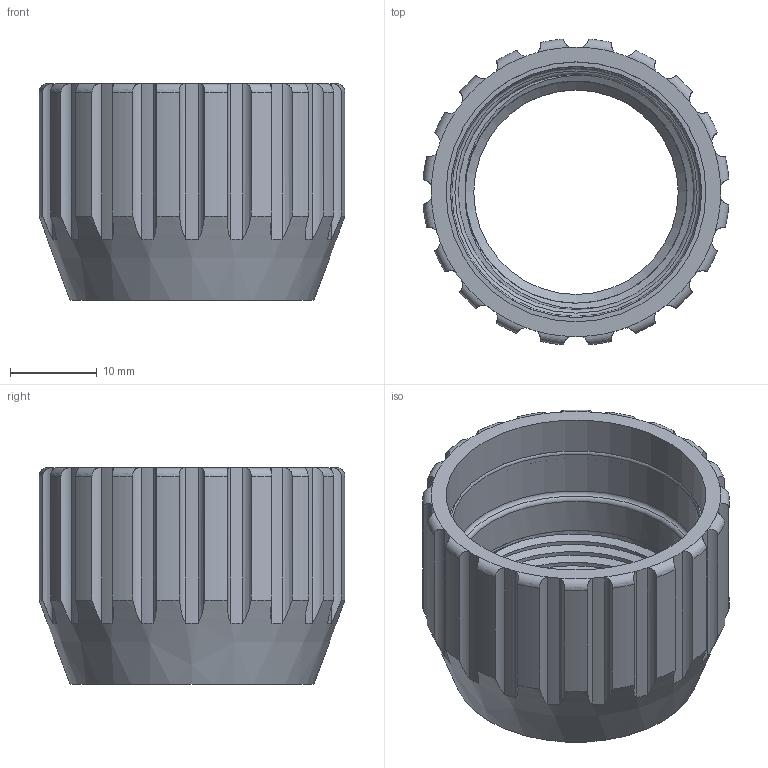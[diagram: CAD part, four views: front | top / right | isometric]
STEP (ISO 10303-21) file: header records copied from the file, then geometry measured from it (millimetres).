
FILE_DESCRIPTION(/* description */ (''),/* implementation_level */ '2;1');
FILE_NAME(/* name */ 'Boltlok cover.step',/* time_stamp */ '2026-09-23T16:57:07+03:00',/* author */ (''),/* organization */ (''),/* preprocessor_version */ 'ST-DEVELOPER v20.2',/* originating_system */ 'Autodesk Translation Framework v15.15.0.0',/* authorisation */ '');
FILE_SCHEMA (('AUTOMOTIVE_DESIGN { 1 0 10303 214 3 1 1 }'));
Length unit declared in the file: millimetre
Products named in the file (1): 2026-04-29-20-47-38-612
Bounding box: 35.28 x 35.28 x 25 mm (x, y, z)
Volume: 6963.1 mm3; surface area: 6345.5 mm2
Topology: 1 solids, 1 shells, 126 faces, 321 edges, 199 vertices
Faces by surface type: cylinder 92, torus 23, plane 6, cone 3, bspline 2
Full cylindrical faces by diameter (mm): 23.6 x1, 27.2 x1, 27.208 x5, 28.7 x1, 29 x1, 30 x1
Entity records: 6121 total; most frequent: CARTESIAN_POINT 3154, ORIENTED_EDGE 642, DIRECTION 592, EDGE_CURVE 321, AXIS2_PLACEMENT_3D 249, VERTEX_POINT 199, EDGE_LOOP 130, FACE_OUTER_BOUND 126
